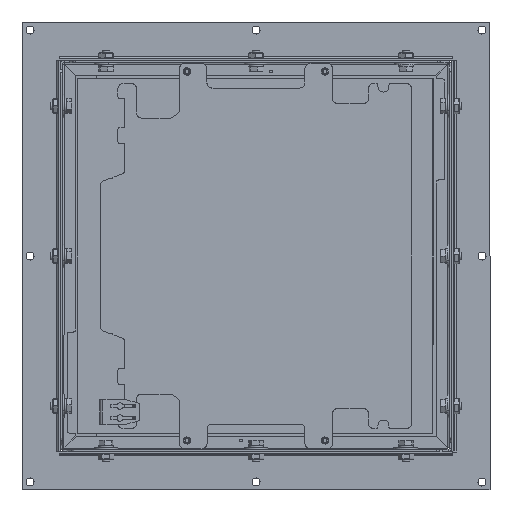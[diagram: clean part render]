
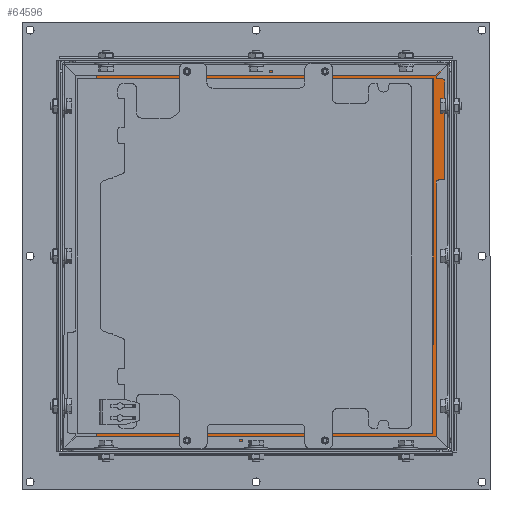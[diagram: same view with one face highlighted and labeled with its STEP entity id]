
A CAD part, front view. The second image highlights one B-rep face of the part: STEP entity #64596.
In plain terms, the highlighted planar face has unit normal (0, -1, 0).
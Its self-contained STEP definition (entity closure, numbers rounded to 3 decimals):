
#163 = CARTESIAN_POINT ( 'NONE',  ( 190.628, 0., -193.008 ) ) ;
#3589 = CARTESIAN_POINT ( 'NONE',  ( 191.818, 0., 192.434 ) ) ;
#3910 = CARTESIAN_POINT ( 'NONE',  ( 194., 0., 193.11 ) ) ;
#5894 = VERTEX_POINT ( 'NONE', #70147 ) ;
#6492 = CARTESIAN_POINT ( 'NONE',  ( 192.78, 0., -191.252 ) ) ;
#7448 = CARTESIAN_POINT ( 'NONE',  ( 190.842, 0., -192.946 ) ) ;
#7976 = CARTESIAN_POINT ( 'NONE',  ( 178., 0., 177.11 ) ) ;
#11014 = VERTEX_POINT ( 'NONE', #85510 ) ;
#12975 = DIRECTION ( 'NONE',  ( -1., 0., 0. ) ) ;
#13793 = LINE ( 'NONE', #78215, #89062 ) ;
#13798 = CARTESIAN_POINT ( 'NONE',  ( 193.007, 0., -190.634 ) ) ;
#14077 = PLANE ( 'NONE',  #40212 ) ;
#14557 = DIRECTION ( 'NONE',  ( 0., 0., 1. ) ) ;
#14813 = VERTEX_POINT ( 'NONE', #7976 ) ;
#17705 = EDGE_CURVE ( 'NONE', #49274, #14813, #31136, .T. ) ;
#19643 = VECTOR ( 'NONE', #41609, 1000. ) ;
#20786 = CARTESIAN_POINT ( 'NONE',  ( 191.811, 0., -192.439 ) ) ;
#23060 = VECTOR ( 'NONE', #88548, 1000. ) ;
#23839 = CARTESIAN_POINT ( 'NONE',  ( 194., 0., -193.11 ) ) ;
#24095 = CARTESIAN_POINT ( 'NONE',  ( 193.11, 0., -189.757 ) ) ;
#25518 = CARTESIAN_POINT ( 'NONE',  ( 190.634, 0., 193.007 ) ) ;
#26472 = CARTESIAN_POINT ( 'NONE',  ( 189.757, 0., 193.11 ) ) ;
#26790 = CARTESIAN_POINT ( 'NONE',  ( 192.946, 0., 190.842 ) ) ;
#27553 = LINE ( 'NONE', #79007, #28774 ) ;
#28774 = VECTOR ( 'NONE', #12975, 1000. ) ;
#29089 = B_SPLINE_CURVE_WITH_KNOTS ( 'NONE', 3,
 ( #50401, #64420, #86157, #163, #7448, #35763, #42448, #20786, #43074, #50078, #94074, #65055, #6492, #57414, #13798, #58060, #64745, #29133 ),
 .UNSPECIFIED., .F., .F.,
 ( 4, 2, 2, 2, 2, 2, 2, 2, 4 ),
 ( 0., 0.001, 0.001, 0.002, 0.003, 0.003, 0.004, 0.005, 0.005 ),
 .UNSPECIFIED. ) ;
#29133 = CARTESIAN_POINT ( 'NONE',  ( 193.11, 0., -189.757 ) ) ;
#29409 = VERTEX_POINT ( 'NONE', #32863 ) ;
#29764 = EDGE_CURVE ( 'NONE', #11014, #59019, #76404, .T. ) ;
#29809 = ORIENTED_EDGE ( 'NONE', *, *, #57754, .T. ) ;
#30652 = CARTESIAN_POINT ( 'NONE',  ( 189.757, 0., 193.11 ) ) ;
#31136 = LINE ( 'NONE', #56919, #19643 ) ;
#32863 = CARTESIAN_POINT ( 'NONE',  ( 193.11, 0., 189.757 ) ) ;
#33147 = CARTESIAN_POINT ( 'NONE',  ( 191.252, 0., 192.78 ) ) ;
#33783 = CARTESIAN_POINT ( 'NONE',  ( 192.68, 0., 191.445 ) ) ;
#35763 = CARTESIAN_POINT ( 'NONE',  ( 191.251, 0., -192.781 ) ) ;
#38210 = FACE_OUTER_BOUND ( 'NONE', #93616, .T. ) ;
#40212 = AXIS2_PLACEMENT_3D ( 'NONE', #94377, #94047, #50682 ) ;
#40429 = DIRECTION ( 'NONE',  ( 0., 0., 1. ) ) ;
#41609 = DIRECTION ( 'NONE',  ( 0., 0., 1. ) ) ;
#42221 = VERTEX_POINT ( 'NONE', #51691 ) ;
#42448 = CARTESIAN_POINT ( 'NONE',  ( 191.445, 0., -192.68 ) ) ;
#43074 = CARTESIAN_POINT ( 'NONE',  ( 191.985, 0., -192.297 ) ) ;
#44152 = ORIENTED_EDGE ( 'NONE', *, *, #17705, .F. ) ;
#45693 = EDGE_CURVE ( 'NONE', #49274, #42221, #64071, .T. ) ;
#46997 = VERTEX_POINT ( 'NONE', #30652 ) ;
#48043 = CARTESIAN_POINT ( 'NONE',  ( 193.11, 0., 189.757 ) ) ;
#48314 = ORIENTED_EDGE ( 'NONE', *, *, #91077, .F. ) ;
#49274 = VERTEX_POINT ( 'NONE', #77291 ) ;
#50078 = CARTESIAN_POINT ( 'NONE',  ( 192.295, 0., -191.987 ) ) ;
#50401 = CARTESIAN_POINT ( 'NONE',  ( 189.757, 0., -193.11 ) ) ;
#50682 = DIRECTION ( 'NONE',  ( 0., 0., 1. ) ) ;
#51691 = CARTESIAN_POINT ( 'NONE',  ( -159., 0., -177.11 ) ) ;
#52270 = ORIENTED_EDGE ( 'NONE', *, *, #90834, .F. ) ;
#53680 = VERTEX_POINT ( 'NONE', #24095 ) ;
#54486 = CARTESIAN_POINT ( 'NONE',  ( 191.449, 0., 192.677 ) ) ;
#55120 = CARTESIAN_POINT ( 'NONE',  ( 193.11, 0., 189.979 ) ) ;
#56919 = CARTESIAN_POINT ( 'NONE',  ( 178., 0., -177.11 ) ) ;
#56992 = VECTOR ( 'NONE', #68441, 1000. ) ;
#57252 = EDGE_CURVE ( 'NONE', #53680, #29409, #13793, .T. ) ;
#57414 = CARTESIAN_POINT ( 'NONE',  ( 192.944, 0., -190.846 ) ) ;
#57754 = EDGE_CURVE ( 'NONE', #46997, #59846, #88991, .T. ) ;
#58060 = CARTESIAN_POINT ( 'NONE',  ( 193.09, 0., -190.199 ) ) ;
#58808 = CARTESIAN_POINT ( 'NONE',  ( -159., 0., -194. ) ) ;
#58932 = ORIENTED_EDGE ( 'NONE', *, *, #70266, .F. ) ;
#59019 = VERTEX_POINT ( 'NONE', #89500 ) ;
#59128 = VECTOR ( 'NONE', #40429, 1000. ) ;
#59846 = VERTEX_POINT ( 'NONE', #64466 ) ;
#61823 = CARTESIAN_POINT ( 'NONE',  ( 191.987, 0., 192.295 ) ) ;
#62445 = CARTESIAN_POINT ( 'NONE',  ( 190.846, 0., 192.944 ) ) ;
#62755 = CARTESIAN_POINT ( 'NONE',  ( 193.09, 0., 190.198 ) ) ;
#63066 = CARTESIAN_POINT ( 'NONE',  ( 193.008, 0., 190.628 ) ) ;
#63456 = ORIENTED_EDGE ( 'NONE', *, *, #57252, .T. ) ;
#64071 = LINE ( 'NONE', #88237, #23060 ) ;
#64420 = CARTESIAN_POINT ( 'NONE',  ( 189.979, 0., -193.11 ) ) ;
#64466 = CARTESIAN_POINT ( 'NONE',  ( -159., 0., 193.11 ) ) ;
#64596 = ADVANCED_FACE ( 'NONE', ( #38210 ), #14077, .F. ) ;
#64745 = CARTESIAN_POINT ( 'NONE',  ( 193.11, 0., -189.979 ) ) ;
#65055 = CARTESIAN_POINT ( 'NONE',  ( 192.677, 0., -191.449 ) ) ;
#68441 = DIRECTION ( 'NONE',  ( -1., 0., 0. ) ) ;
#70033 = B_SPLINE_CURVE_WITH_KNOTS ( 'NONE', 3,
 ( #48043, #55120, #62755, #63066, #26790, #85129, #33783, #77790, #84799, #61823, #3589, #54486, #33147, #62445, #25518, #77472, #83853, #26472 ),
 .UNSPECIFIED., .F., .F.,
 ( 4, 2, 2, 2, 2, 2, 2, 2, 4 ),
 ( 0., 0.001, 0.001, 0.002, 0.003, 0.003, 0.004, 0.005, 0.005 ),
 .UNSPECIFIED. ) ;
#70147 = CARTESIAN_POINT ( 'NONE',  ( -159., 0., 177.11 ) ) ;
#70266 = EDGE_CURVE ( 'NONE', #14813, #5894, #27553, .T. ) ;
#71421 = DIRECTION ( 'NONE',  ( -1., 0., 0. ) ) ;
#74988 = ORIENTED_EDGE ( 'NONE', *, *, #45693, .T. ) ;
#76404 = LINE ( 'NONE', #23839, #56992 ) ;
#77291 = CARTESIAN_POINT ( 'NONE',  ( 178., 0., -177.11 ) ) ;
#77472 = CARTESIAN_POINT ( 'NONE',  ( 190.199, 0., 193.09 ) ) ;
#77790 = CARTESIAN_POINT ( 'NONE',  ( 192.439, 0., 191.811 ) ) ;
#78215 = CARTESIAN_POINT ( 'NONE',  ( 193.11, 0., -194. ) ) ;
#78572 = LINE ( 'NONE', #84157, #59128 ) ;
#78780 = VECTOR ( 'NONE', #71421, 1000. ) ;
#79007 = CARTESIAN_POINT ( 'NONE',  ( 178., 0., 177.11 ) ) ;
#82750 = ORIENTED_EDGE ( 'NONE', *, *, #29764, .F. ) ;
#83158 = ORIENTED_EDGE ( 'NONE', *, *, #86499, .T. ) ;
#83853 = CARTESIAN_POINT ( 'NONE',  ( 189.979, 0., 193.11 ) ) ;
#84157 = CARTESIAN_POINT ( 'NONE',  ( -159., 0., -194. ) ) ;
#84469 = VECTOR ( 'NONE', #14557, 1000. ) ;
#84799 = CARTESIAN_POINT ( 'NONE',  ( 192.297, 0., 191.985 ) ) ;
#85129 = CARTESIAN_POINT ( 'NONE',  ( 192.781, 0., 191.251 ) ) ;
#85510 = CARTESIAN_POINT ( 'NONE',  ( 189.757, 0., -193.11 ) ) ;
#85569 = EDGE_CURVE ( 'NONE', #29409, #46997, #70033, .T. ) ;
#86157 = CARTESIAN_POINT ( 'NONE',  ( 190.198, 0., -193.09 ) ) ;
#86499 = EDGE_CURVE ( 'NONE', #11014, #53680, #29089, .T. ) ;
#87891 = LINE ( 'NONE', #58808, #84469 ) ;
#88237 = CARTESIAN_POINT ( 'NONE',  ( 178., 0., -177.11 ) ) ;
#88548 = DIRECTION ( 'NONE',  ( -1., 0., 0. ) ) ;
#88991 = LINE ( 'NONE', #3910, #78780 ) ;
#89062 = VECTOR ( 'NONE', #92537, 1000. ) ;
#89500 = CARTESIAN_POINT ( 'NONE',  ( -159., 0., -193.11 ) ) ;
#90834 = EDGE_CURVE ( 'NONE', #5894, #59846, #78572, .T. ) ;
#91077 = EDGE_CURVE ( 'NONE', #59019, #42221, #87891, .T. ) ;
#92537 = DIRECTION ( 'NONE',  ( 0., 0., 1. ) ) ;
#93616 = EDGE_LOOP ( 'NONE', ( #52270, #58932, #44152, #74988, #48314, #82750, #83158, #63456, #94076, #29809 ) ) ;
#94047 = DIRECTION ( 'NONE',  ( 0., 1., 0. ) ) ;
#94074 = CARTESIAN_POINT ( 'NONE',  ( 192.434, 0., -191.818 ) ) ;
#94076 = ORIENTED_EDGE ( 'NONE', *, *, #85569, .T. ) ;
#94377 = CARTESIAN_POINT ( 'NONE',  ( -194., 0., 194. ) ) ;
